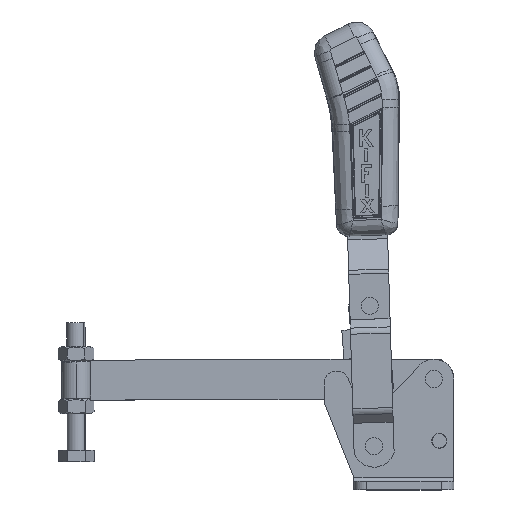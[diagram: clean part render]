
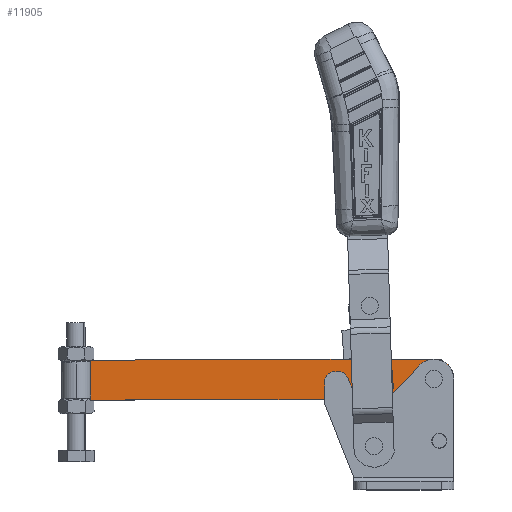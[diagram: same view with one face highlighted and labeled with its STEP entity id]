
A CAD part, top view. The second image highlights one B-rep face of the part: STEP entity #11905.
In plain terms, the highlighted planar face has unit normal (0, 0, 1) as drawn and (0, -1, 0) by its records, which use the part's own axes.
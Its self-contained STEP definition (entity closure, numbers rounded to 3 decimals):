
#63 = ORIENTED_EDGE ( 'NONE', *, *, #17147, .F. ) ;
#73 = DIRECTION ( 'NONE',  ( -1., 0., 0. ) ) ;
#696 = DIRECTION ( 'NONE',  ( 0., 0., -1. ) ) ;
#1185 = AXIS2_PLACEMENT_3D ( 'NONE', #7433, #9486, #22908 ) ;
#1447 = EDGE_CURVE ( 'NONE', #16110, #5496, #5739, .T. ) ;
#1617 = VERTEX_POINT ( 'NONE', #5899 ) ;
#1634 = FACE_OUTER_BOUND ( 'NONE', #4155, .T. ) ;
#2292 = CARTESIAN_POINT ( 'NONE',  ( -156.8, 0., 4. ) ) ;
#2668 = CARTESIAN_POINT ( 'NONE',  ( 0., 0., -11. ) ) ;
#2769 = EDGE_LOOP ( 'NONE', ( #5917, #9275 ) ) ;
#3004 = CARTESIAN_POINT ( 'NONE',  ( -156.8, 0., -4. ) ) ;
#3556 = EDGE_CURVE ( 'NONE', #19370, #9210, #12862, .T. ) ;
#3585 = CARTESIAN_POINT ( 'NONE',  ( -156.8, 0., 0. ) ) ;
#3590 = PLANE ( 'NONE',  #1185 ) ;
#4046 = DIRECTION ( 'NONE',  ( 0., 0., 1. ) ) ;
#4134 = DIRECTION ( 'NONE',  ( 0., 1., 0. ) ) ;
#4155 = EDGE_LOOP ( 'NONE', ( #4232, #6929, #63, #14840 ) ) ;
#4198 = CARTESIAN_POINT ( 'NONE',  ( -156.8, 0., 0. ) ) ;
#4232 = ORIENTED_EDGE ( 'NONE', *, *, #3556, .F. ) ;
#4604 = EDGE_LOOP ( 'NONE', ( #17142, #21366 ) ) ;
#5496 = VERTEX_POINT ( 'NONE', #3004 ) ;
#5543 = DIRECTION ( 'NONE',  ( 0., 0., 1. ) ) ;
#5694 = EDGE_CURVE ( 'NONE', #7513, #7305, #7064, .T. ) ;
#5739 = CIRCLE ( 'NONE', #21221, 4. ) ;
#5797 = LINE ( 'NONE', #24570, #16090 ) ;
#5899 = CARTESIAN_POINT ( 'NONE',  ( 0., 0., 11. ) ) ;
#5917 = ORIENTED_EDGE ( 'NONE', *, *, #8798, .T. ) ;
#6250 = FACE_BOUND ( 'NONE', #2769, .T. ) ;
#6929 = ORIENTED_EDGE ( 'NONE', *, *, #16969, .F. ) ;
#7064 = CIRCLE ( 'NONE', #20020, 4. ) ;
#7126 = VERTEX_POINT ( 'NONE', #24725 ) ;
#7305 = VERTEX_POINT ( 'NONE', #22382 ) ;
#7433 = CARTESIAN_POINT ( 'NONE',  ( -188.437, 0., 0. ) ) ;
#7513 = VERTEX_POINT ( 'NONE', #18232 ) ;
#8798 = EDGE_CURVE ( 'NONE', #7305, #7513, #14759, .T. ) ;
#9210 = VERTEX_POINT ( 'NONE', #14277 ) ;
#9275 = ORIENTED_EDGE ( 'NONE', *, *, #5694, .T. ) ;
#9486 = DIRECTION ( 'NONE',  ( 0., 1., 0. ) ) ;
#9520 = CARTESIAN_POINT ( 'NONE',  ( 0., 0., -11. ) ) ;
#9581 = CARTESIAN_POINT ( 'NONE',  ( -188.437, 0., 0. ) ) ;
#11487 = DIRECTION ( 'NONE',  ( 0., 0., 1. ) ) ;
#11905 = ADVANCED_FACE ( 'NONE', ( #6250, #1634, #15912 ), #3590, .F. ) ;
#12862 = LINE ( 'NONE', #24278, #22494 ) ;
#13345 = VECTOR ( 'NONE', #696, 1000. ) ;
#14277 = CARTESIAN_POINT ( 'NONE',  ( -192., 0., -11. ) ) ;
#14759 = CIRCLE ( 'NONE', #24258, 4. ) ;
#14840 = ORIENTED_EDGE ( 'NONE', *, *, #19902, .F. ) ;
#14987 = DIRECTION ( 'NONE',  ( 1., 0., 0. ) ) ;
#15912 = FACE_BOUND ( 'NONE', #4604, .T. ) ;
#16090 = VECTOR ( 'NONE', #14987, 1000. ) ;
#16110 = VERTEX_POINT ( 'NONE', #2292 ) ;
#16252 = AXIS2_PLACEMENT_3D ( 'NONE', #9581, #23009, #11487 ) ;
#16969 = EDGE_CURVE ( 'NONE', #1617, #19370, #22990, .T. ) ;
#17128 = DIRECTION ( 'NONE',  ( 0., 1., 0. ) ) ;
#17142 = ORIENTED_EDGE ( 'NONE', *, *, #21117, .T. ) ;
#17147 = EDGE_CURVE ( 'NONE', #7126, #1617, #5797, .T. ) ;
#17442 = CIRCLE ( 'NONE', #20348, 4. ) ;
#18232 = CARTESIAN_POINT ( 'NONE',  ( -189., 0., 4. ) ) ;
#19370 = VERTEX_POINT ( 'NONE', #9520 ) ;
#19902 = EDGE_CURVE ( 'NONE', #9210, #7126, #22874, .T. ) ;
#20020 = AXIS2_PLACEMENT_3D ( 'NONE', #22576, #22505, #22437 ) ;
#20348 = AXIS2_PLACEMENT_3D ( 'NONE', #3585, #17128, #5543 ) ;
#21117 = EDGE_CURVE ( 'NONE', #5496, #16110, #17442, .T. ) ;
#21221 = AXIS2_PLACEMENT_3D ( 'NONE', #4198, #4134, #4046 ) ;
#21366 = ORIENTED_EDGE ( 'NONE', *, *, #1447, .T. ) ;
#22382 = CARTESIAN_POINT ( 'NONE',  ( -189., 0., -4. ) ) ;
#22437 = DIRECTION ( 'NONE',  ( 0., 0., 1. ) ) ;
#22494 = VECTOR ( 'NONE', #73, 1000. ) ;
#22505 = DIRECTION ( 'NONE',  ( 0., 1., 0. ) ) ;
#22576 = CARTESIAN_POINT ( 'NONE',  ( -189., 0., 0. ) ) ;
#22874 = CIRCLE ( 'NONE', #16252, 11.563 ) ;
#22908 = DIRECTION ( 'NONE',  ( 0., 0., 1. ) ) ;
#22990 = LINE ( 'NONE', #2668, #13345 ) ;
#23009 = DIRECTION ( 'NONE',  ( 0., 1., 0. ) ) ;
#24258 = AXIS2_PLACEMENT_3D ( 'NONE', #24891, #24859, #24807 ) ;
#24278 = CARTESIAN_POINT ( 'NONE',  ( 0., 0., -11. ) ) ;
#24570 = CARTESIAN_POINT ( 'NONE',  ( 0., 0., 11. ) ) ;
#24725 = CARTESIAN_POINT ( 'NONE',  ( -192., 0., 11. ) ) ;
#24807 = DIRECTION ( 'NONE',  ( 0., 0., 1. ) ) ;
#24859 = DIRECTION ( 'NONE',  ( 0., 1., 0. ) ) ;
#24891 = CARTESIAN_POINT ( 'NONE',  ( -189., 0., 0. ) ) ;
